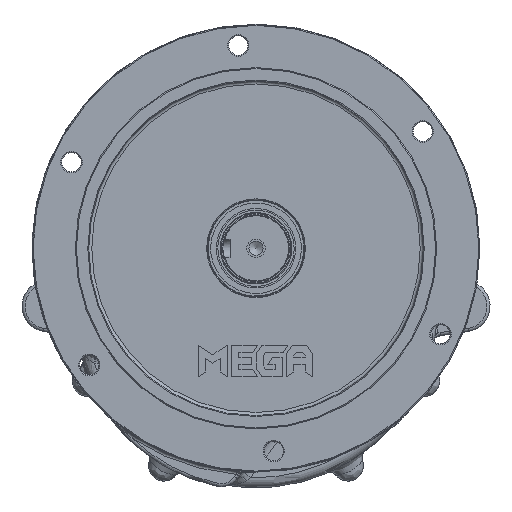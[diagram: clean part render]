
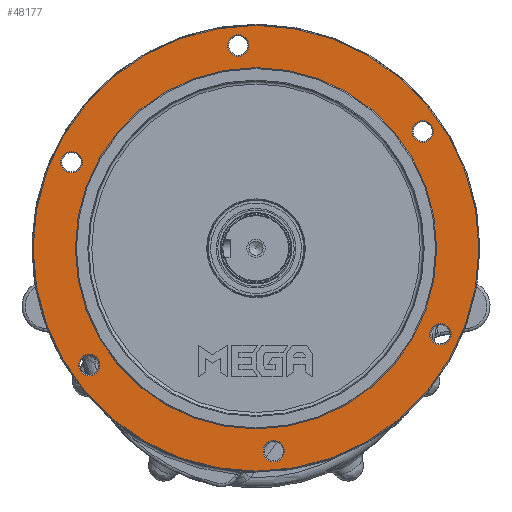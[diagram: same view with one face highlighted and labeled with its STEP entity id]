
A CAD part, front view. The second image highlights one B-rep face of the part: STEP entity #48177.
In plain terms, the highlighted planar face has unit normal (0, -1, 0).
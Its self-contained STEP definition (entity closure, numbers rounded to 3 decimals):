
#879=FACE_BOUND('',#13492,.T.);
#880=FACE_BOUND('',#13493,.T.);
#881=FACE_BOUND('',#13494,.T.);
#882=FACE_BOUND('',#13495,.T.);
#883=FACE_BOUND('',#13496,.T.);
#884=FACE_BOUND('',#13497,.T.);
#885=FACE_BOUND('',#13498,.T.);
#1338=PLANE('',#51613);
#10611=FACE_OUTER_BOUND('',#13491,.T.);
#13491=EDGE_LOOP('',(#34307));
#13492=EDGE_LOOP('',(#34308));
#13493=EDGE_LOOP('',(#34309));
#13494=EDGE_LOOP('',(#34310));
#13495=EDGE_LOOP('',(#34311));
#13496=EDGE_LOOP('',(#34312));
#13497=EDGE_LOOP('',(#34313));
#13498=EDGE_LOOP('',(#34314));
#16405=CIRCLE('',#51434,219.);
#16408=CIRCLE('',#51439,177.5);
#16483=CIRCLE('',#51579,10.5);
#16494=CIRCLE('',#51594,10.5);
#16497=CIRCLE('',#51599,10.5);
#16500=CIRCLE('',#51604,10.5);
#16503=CIRCLE('',#51609,10.5);
#16506=CIRCLE('',#51614,10.5);
#19773=VERTEX_POINT('',#84936);
#19776=VERTEX_POINT('',#84945);
#19914=VERTEX_POINT('',#86795);
#19922=VERTEX_POINT('',#86820);
#19925=VERTEX_POINT('',#86830);
#19928=VERTEX_POINT('',#86840);
#19931=VERTEX_POINT('',#86850);
#19934=VERTEX_POINT('',#86860);
#24937=EDGE_CURVE('',#19773,#19773,#16405,.T.);
#24941=EDGE_CURVE('',#19776,#19776,#16408,.T.);
#25184=EDGE_CURVE('',#19914,#19914,#16483,.T.);
#25197=EDGE_CURVE('',#19922,#19922,#16494,.T.);
#25202=EDGE_CURVE('',#19925,#19925,#16497,.T.);
#25207=EDGE_CURVE('',#19928,#19928,#16500,.T.);
#25212=EDGE_CURVE('',#19931,#19931,#16503,.T.);
#25217=EDGE_CURVE('',#19934,#19934,#16506,.T.);
#34307=ORIENTED_EDGE('',*,*,#24937,.F.);
#34308=ORIENTED_EDGE('',*,*,#25212,.F.);
#34309=ORIENTED_EDGE('',*,*,#25202,.F.);
#34310=ORIENTED_EDGE('',*,*,#25184,.F.);
#34311=ORIENTED_EDGE('',*,*,#24941,.F.);
#34312=ORIENTED_EDGE('',*,*,#25197,.F.);
#34313=ORIENTED_EDGE('',*,*,#25207,.F.);
#34314=ORIENTED_EDGE('',*,*,#25217,.F.);
#48177=ADVANCED_FACE('',(#10611,#879,#880,#881,#882,#883,#884,#885),#1338,
 .T.);
#51434=AXIS2_PLACEMENT_3D('',#84938,#58592,#58593);
#51439=AXIS2_PLACEMENT_3D('',#84947,#58603,#58604);
#51579=AXIS2_PLACEMENT_3D('',#86796,#58974,#58975);
#51594=AXIS2_PLACEMENT_3D('',#86821,#59006,#59007);
#51599=AXIS2_PLACEMENT_3D('',#86831,#59018,#59019);
#51604=AXIS2_PLACEMENT_3D('',#86841,#59030,#59031);
#51609=AXIS2_PLACEMENT_3D('',#86851,#59042,#59043);
#51613=AXIS2_PLACEMENT_3D('',#86859,#59052,#59053);
#51614=AXIS2_PLACEMENT_3D('',#86861,#59054,#59055);
#58592=DIRECTION('center_axis',(0.,1.,0.));
#58593=DIRECTION('ref_axis',(-1.,0.,0.));
#58603=DIRECTION('center_axis',(0.,-1.,0.));
#58604=DIRECTION('ref_axis',(-1.,0.,0.));
#58974=DIRECTION('center_axis',(0.,-1.,0.));
#58975=DIRECTION('ref_axis',(-1.,0.,0.));
#59006=DIRECTION('center_axis',(0.,-1.,0.));
#59007=DIRECTION('ref_axis',(-0.5,0.,0.866));
#59018=DIRECTION('center_axis',(0.,-1.,0.));
#59019=DIRECTION('ref_axis',(0.5,0.,0.866));
#59030=DIRECTION('center_axis',(0.,-1.,0.));
#59031=DIRECTION('ref_axis',(1.,0.,0.));
#59042=DIRECTION('center_axis',(0.,-1.,0.));
#59043=DIRECTION('ref_axis',(0.5,0.,-0.866));
#59052=DIRECTION('center_axis',(0.,-1.,0.));
#59053=DIRECTION('ref_axis',(0.,0.,-1.));
#59054=DIRECTION('center_axis',(0.,-1.,0.));
#59055=DIRECTION('ref_axis',(-0.5,0.,-0.866));
#84936=CARTESIAN_POINT('',(219.228,-228.728,55.25));
#84938=CARTESIAN_POINT('Origin',(0.228,-228.728,55.25));
#84945=CARTESIAN_POINT('',(177.728,-228.728,55.25));
#84947=CARTESIAN_POINT('Origin',(0.228,-228.728,55.25));
#86795=CARTESIAN_POINT('',(-6.703,-228.728,254.489));
#86796=CARTESIAN_POINT('Origin',(-17.203,-228.728,254.489));
#86820=CARTESIAN_POINT('',(169.309,-228.728,160.872));
#86821=CARTESIAN_POINT('Origin',(164.059,-228.728,169.965));
#86830=CARTESIAN_POINT('',(176.24,-228.728,-38.367));
#86831=CARTESIAN_POINT('Origin',(181.49,-228.728,-29.274));
#86840=CARTESIAN_POINT('',(7.16,-228.728,-143.989));
#86841=CARTESIAN_POINT('Origin',(17.66,-228.728,-143.989));
#86850=CARTESIAN_POINT('',(-168.852,-228.728,-50.372));
#86851=CARTESIAN_POINT('Origin',(-163.602,-228.728,-59.465));
#86859=CARTESIAN_POINT('Origin',(0.228,-228.728,55.25));
#86860=CARTESIAN_POINT('',(-175.783,-228.728,148.867));
#86861=CARTESIAN_POINT('Origin',(-181.033,-228.728,139.774));
